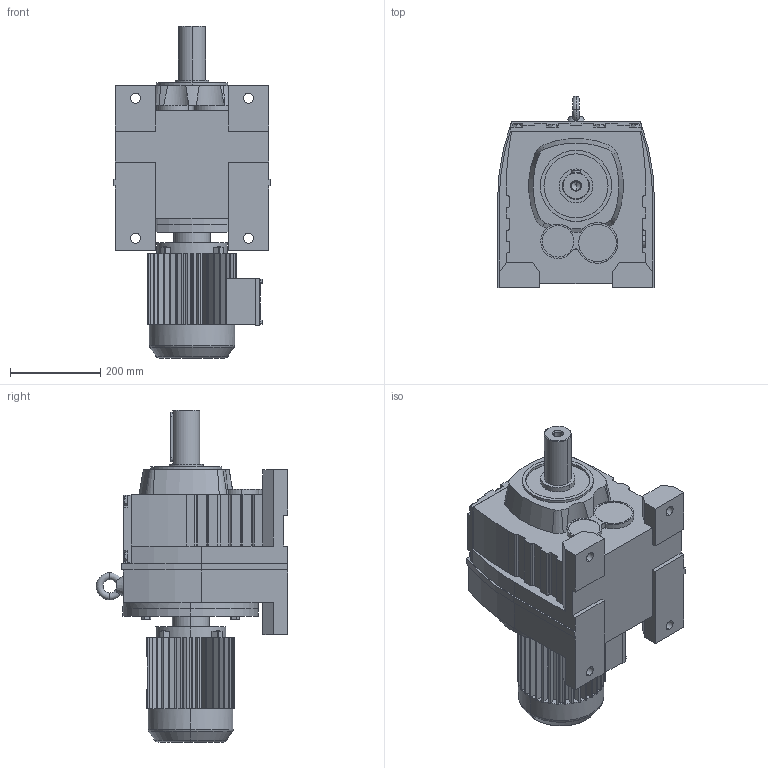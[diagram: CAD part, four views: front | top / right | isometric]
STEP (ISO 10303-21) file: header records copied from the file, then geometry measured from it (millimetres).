
FILE_DESCRIPTION(('Open CASCADE Model'),'2;1');
FILE_NAME('Open CASCADE Shape Model','2021-07-09T13:37:20',('Author'),( 'Open CASCADE'),'Open CASCADE STEP processor 6.3','Open CASCADE 6.3' ,'Unknown');
FILE_SCHEMA(('AUTOMOTIVE_DESIGN_CC2 { 1 2 10303 214 -1 1 5 4 }'));
Length unit declared in the file: millimetre
Products named in the file (3): 1_R97-Y90L; R37‵167_97.step; 萇儂_300_Y90L.step
Assembly tree (2 placements, depth 2):
  1_R97-Y90L
    R37‵167_97.step
    萇儂_300_Y90L.step
Bounding box: 348 x 424 x 735 mm (x, y, z)
Volume: 39727421.3 mm3; surface area: 1333424.8 mm2
Topology: 2 solids, 2 shells, 750 faces, 2001 edges, 1292 vertices
Faces by surface type: plane 533, cylinder 187, cone 20, torus 10
Entity records: 52275 total; most frequent: CARTESIAN_POINT 14103, DIRECTION 6660, ORIENTED_EDGE 3998, PCURVE 3998, DEFINITIONAL_REPRESENTATION 3998, LINE 3738, VECTOR 3738, EDGE_CURVE 1999
